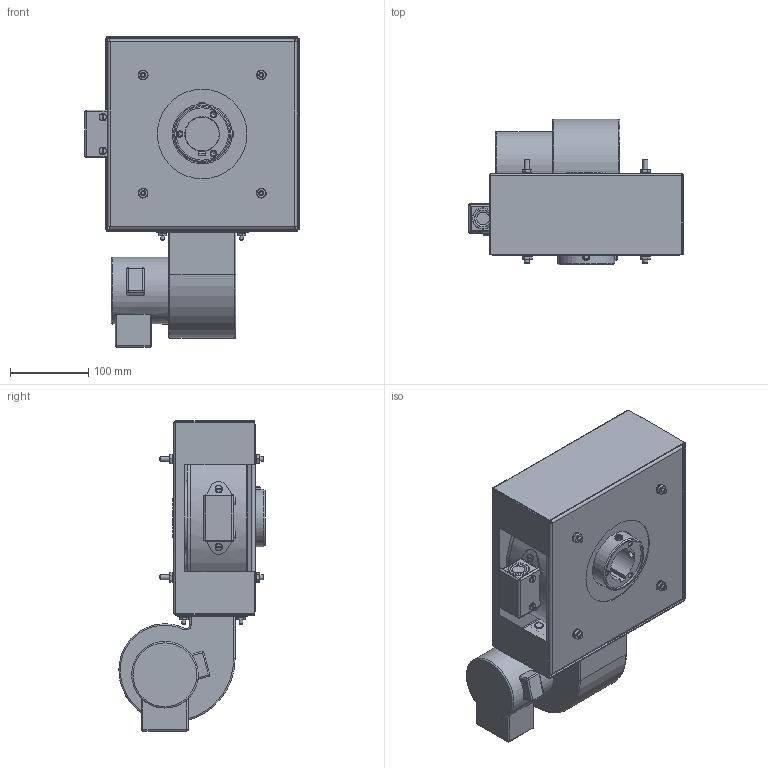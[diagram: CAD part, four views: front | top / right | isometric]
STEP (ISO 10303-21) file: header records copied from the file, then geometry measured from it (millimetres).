
FILE_DESCRIPTION(/* description */ ('STEP AP214'),/* implementation_level */ '2;1');
FILE_NAME(/* name */ '50MBA90S_stp.step',/* time_stamp */ '2026-05-13T10:18:49-05:00',/* author */ (''),/* organization */ (''),/* preprocessor_version */ 'ST-DEVELOPER v20.1',/* originating_system */ 'Autodesk Translation Framework v15.8.0.0',/* authorisation */ '');
FILE_SCHEMA (('AUTOMOTIVE_DESIGN { 1 0 10303 214 3 1 1 }'));
Length unit declared in the file: inch
Products named in the file (1): 50MBA90S_asm_stp
Bounding box: 273.66 x 186.58 x 395.66 mm (x, y, z)
Volume: 2463549.4 mm3; surface area: 1013813.7 mm2
Topology: 4 solids, 7 shells, 1316 faces, 3223 edges, 1933 vertices
Faces by surface type: plane 651, cylinder 285, cone 239, torus 77, bspline 46, sphere 18
Full cylindrical faces by diameter (mm): 3.795 x4, 4.039 x4, 4.762 x2, 4.826 x8, 4.978 x4, 6.35 x16, 6.528 x3, 7.137 x4, 7.144 x8, 7.938 x6, 9.474 x4, 9.525 x2, 12.7 x1, 15.875 x1, 17.983 x1, 22.225 x3, 31.75 x1, 44.831 x1, 59.98 x1, 59.995 x1, 66.675 x1, 73.025 x1, 76.2 x2, 79.629 x1, 83.185 x1, 84.988 x1, 87.312 x2, 89.535 x1, 94.971 x1, 95.009 x2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
Entity records: 43256 total; most frequent: CARTESIAN_POINT 12067, DIRECTION 6875, ORIENTED_EDGE 6432, EDGE_CURVE 3216, AXIS2_PLACEMENT_3D 2781, VERTEX_POINT 1941, EDGE_LOOP 1491, CIRCLE 1357
